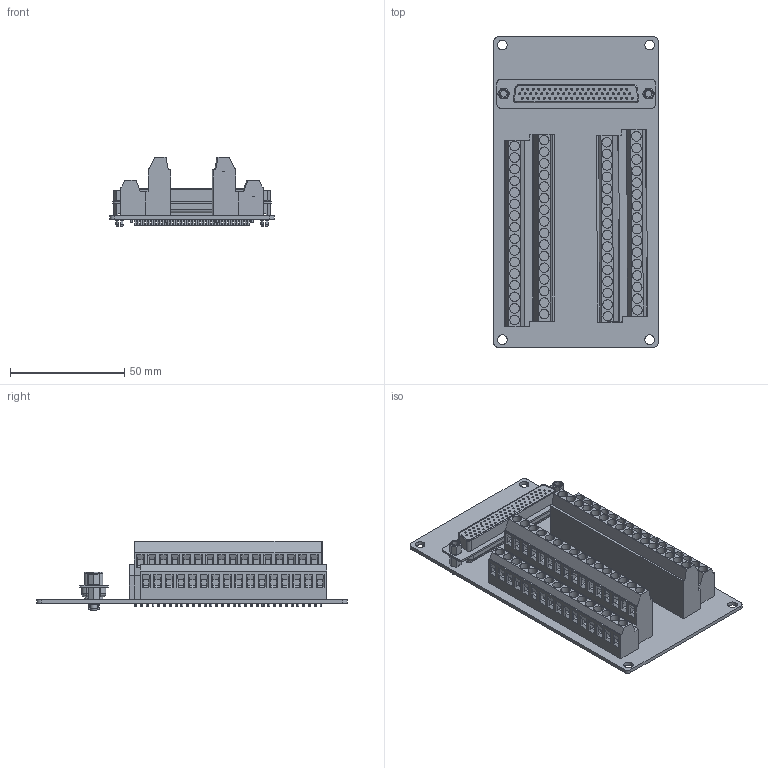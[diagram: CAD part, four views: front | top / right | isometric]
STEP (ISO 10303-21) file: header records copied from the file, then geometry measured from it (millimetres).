
FILE_DESCRIPTION((''),'2;1');
FILE_NAME('ADT-9162A-俋倛喜渡芞-3D','2020-07-07T',('Administrator'),(''),'CREO PARAMETRIC BY PTC INC, 2015290','CREO PARAMETRIC BY PTC INC, 2015290','');
FILE_SCHEMA(('AUTOMOTIVE_DESIGN { 1 0 10303 214 1 1 1 1 }'));
Products named in the file (1): ADT-9162A-俋倛喜渡芞-3D
Bounding box: 72 x 136 x 30.35 mm (x, y, z)
Volume: 78817.7 mm3; surface area: 44210.9 mm2
Topology: 1 solids, 1 shells, 1831 faces, 4269 edges, 2817 vertices
Faces by surface type: plane 1069, cylinder 742, cone 12, torus 4, bspline 4
Entity records: 66149 total; most frequent: DIRECTION 9534, CARTESIAN_POINT 9287, ORIENTED_EDGE 8538, EDGE_CURVE 4269, AXIS2_PLACEMENT_3D 3477, VERTEX_POINT 2817, VECTOR 2580, LINE 2580
